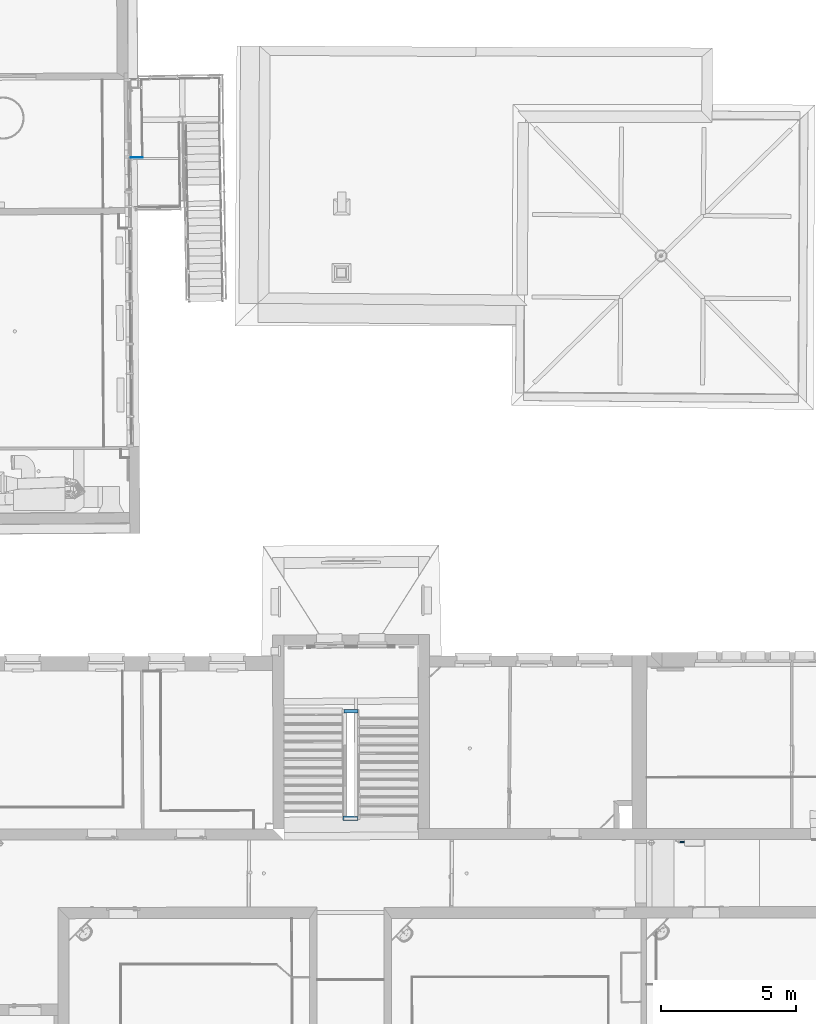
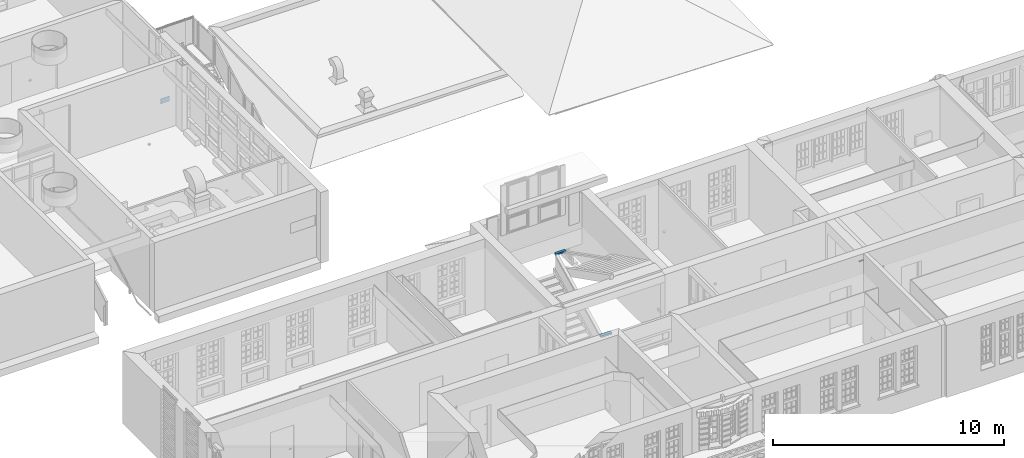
# One storey, part 8 of 158: 4 beams.
"""IFC2X3 building model written with IfcOpenShell, lengths in metres."""

from ifc_helpers import new_model, entity, si_unit, converted_unit, derived_unit, money_unit, direction, frame, frame_2d, origin_with_axes, place, context, subcontext, project, spatial, rectangle, circle, extrude, material, type_object, element, save


model = new_model("IFC2X3")

# Units and contexts
model_context = context("Model", 3, precision=1e-05, world=origin_with_axes(), true_north=direction((0.0, 1.0)))
body_context = subcontext(model_context, "Body", "Model", "MODEL_VIEW")
ifc_project = project(units=[si_unit("LENGTHUNIT", "METRE"), si_unit("AREAUNIT", "SQUARE_METRE"), si_unit("VOLUMEUNIT", "CUBIC_METRE"), converted_unit("PLANEANGLEUNIT", "DEGREE", entity("IfcPlaneAngleMeasure", 0.0174532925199), si_unit("PLANEANGLEUNIT", "RADIAN"), dimensions=[0, 0, 0, 0, 0, 0, 0]), money_unit("EUR"), converted_unit("TIMEUNIT", "Year", entity("IfcTimeMeasure", 31556926.0), si_unit("TIMEUNIT", "SECOND"), dimensions=[0, 0, 1, 0, 0, 0, 0]), si_unit("MASSUNIT", "GRAM", prefix="KILO"), si_unit("THERMODYNAMICTEMPERATUREUNIT", "DEGREE_CELSIUS"), si_unit("LUMINOUSINTENSITYUNIT", "LUMEN"), si_unit("ENERGYUNIT", "JOULE", prefix="MEGA"), derived_unit("THERMALCONDUCTANCEUNIT", [(si_unit("POWERUNIT", "WATT"), 1), (si_unit("LENGTHUNIT", "METRE"), -1), (si_unit("THERMODYNAMICTEMPERATUREUNIT", "KELVIN"), -1)]), derived_unit("SPECIFICHEATCAPACITYUNIT", [(si_unit("ENERGYUNIT", "JOULE"), 1), (si_unit("MASSUNIT", "GRAM", prefix="KILO"), -1), (si_unit("THERMODYNAMICTEMPERATUREUNIT", "KELVIN"), -1)]), derived_unit("MASSDENSITYUNIT", [(si_unit("MASSUNIT", "GRAM", prefix="KILO"), 1), (si_unit("VOLUMEUNIT", "CUBIC_METRE"), -1)])], contexts=[model_context])

# Site, building, storey
site_placement = place(None, origin_with_axes())
site = spatial("IfcSite", under=ifc_project, at=site_placement, Name="Gelände", CompositionType="ELEMENT")
building_placement = place(site_placement, origin_with_axes())
building = spatial("IfcBuilding", under=site, at=building_placement, Name="Gebäude", CompositionType="ELEMENT")
storey_placement = place(building_placement, origin_with_axes())
storey = spatial("IfcBuildingStorey", under=building, at=storey_placement, Name="ERDGESCHOSS", CompositionType="ELEMENT", Elevation=0.0)

# Beams
ifc_material_1 = material(Name="56_Metall, Stahl verzinkt")
beam_type_1 = type_object("IfcBeamType", Name="56_Metall, Stahl verzinkt D60", PredefinedType="LINTEL")
beam_1_placement = place(storey_placement, frame((4.75332853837, 19.1557015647, 0.987261), z_axis=(0.0, 0.0, 1.0), x_axis=(0.00949377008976, -0.999954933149, 0.0)))
element("IfcBeam", 1, at=beam_1_placement, inside=storey, type_object=beam_type_1, material=ifc_material_1, Name="Unterzug-018", ObjectType="LINTEL", context=body_context, shape_type="SweptSolid", body=[
    extrude(circle(Radius=0.03, at=frame_2d((0.0, -0.03), x_axis=(1.0, 0.0))), frame((0.0, 0.0, 0.0), z_axis=(0.0, 1.0, 0.0), x_axis=(0.0, 0.0, 1.0)), (0.0, 0.0, 1.0), 0.203033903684),
])
ifc_material_2 = material(Name="05_ALLGEMEIN - TRAGENDE BAUTEILE")
beam_type_2 = type_object("IfcBeamType", Name="05_ALLGEMEIN - TRAGENDE BAUTEILE 145 x 80", PredefinedType="LINTEL")
beam_2_placement = place(storey_placement, frame((-7.62678718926, 23.9450897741, 2.81778838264), z_axis=(0.0, 0.0, 1.0), x_axis=(0.00167760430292, -0.999998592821, 0.0)))
element("IfcBeam", 2, at=beam_2_placement, inside=storey, type_object=beam_type_2, material=ifc_material_2, Name="Unterzug-020", ObjectType="LINTEL", context=body_context, shape_type="SweptSolid", body=[
    extrude(rectangle(XDim=0.08, YDim=0.145, at=frame_2d((-0.04, -0.0725), x_axis=(1.0, 0.0))), frame((0.0, 0.0, 0.0), z_axis=(0.0, 1.0, 0.0), x_axis=(0.0, 0.0, 1.0)), (0.0, 0.0, 1.0), 0.531854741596),
])
beam_type_3 = type_object("IfcBeamType", Name="56_Metall, Stahl verzinkt 20 x 267", PredefinedType="LINTEL")
beam_3_placement = place(storey_placement, frame((-15.0558837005, 44.472801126, 1.18134866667), z_axis=(0.0, 0.0, 1.0), x_axis=(-0.00703787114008, 0.999975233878, 0.0)))
element("IfcBeam", 3, at=beam_3_placement, inside=storey, type_object=beam_type_3, material=ifc_material_1, Name="Unterzug-005", ObjectType="LINTEL", context=body_context, shape_type="SweptSolid", body=[
    extrude(rectangle(XDim=0.267302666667, YDim=0.02, at=frame_2d((0.0, 0.01), x_axis=(1.0, 0.0))), frame((0.0, 0.0, 0.0), z_axis=(0.0, 1.0, 0.0), x_axis=(0.0, 0.0, 1.0)), (0.0, 0.0, 1.0), 0.44372796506),
])
beam_type_4 = type_object("IfcBeamType", Name="05_ALLGEMEIN - TRAGENDE BAUTEILE 154 x 90", PredefinedType="LINTEL")
beam_4_placement = place(storey_placement, frame((-7.65978612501, 19.9861869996, 0.906225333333), z_axis=(0.0, 0.0, 1.0), x_axis=(-0.00360980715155, -0.999993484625, 0.0)))
element("IfcBeam", 4, at=beam_4_placement, inside=storey, type_object=beam_type_4, material=ifc_material_2, Name="Unterzug-021", ObjectType="LINTEL", context=body_context, shape_type="SweptSolid", body=[
    extrude(rectangle(XDim=0.0902032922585, YDim=0.154321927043, at=frame_2d((-0.0451016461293, -0.0771609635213), x_axis=(1.0, 0.0))), frame((0.0, 0.0, 0.0), z_axis=(0.0, 1.0, 0.0), x_axis=(0.0, 0.0, 1.0)), (0.0, 0.0, 1.0), 0.551914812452),
])

save(model, "model.ifc")
